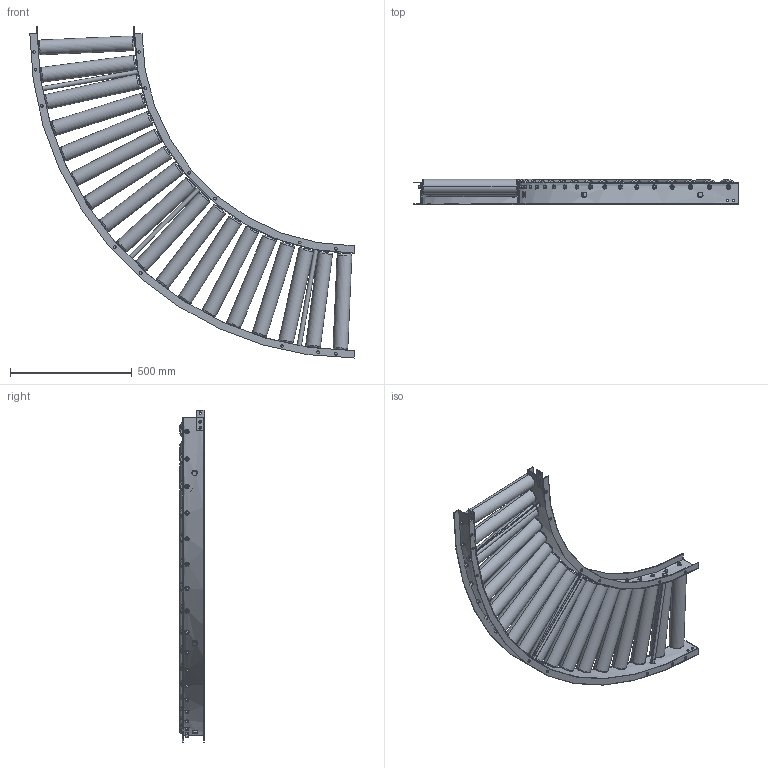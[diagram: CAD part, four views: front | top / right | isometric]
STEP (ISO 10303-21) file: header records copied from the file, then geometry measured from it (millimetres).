
FILE_DESCRIPTION (( 'STEP AP203' ), '1' );
FILE_NAME ('S-6023P_C.step', '2024-03-02T05:09:45', ( '' ), ( '' ), 'SwSTEP 2.0', 'SolidWorks 2023', '' );
FILE_SCHEMA (( 'CONFIG_CONTROL_DESIGN' ));
Length unit declared in the file: millimetre
Products named in the file (1): S-6023P_C
Bounding box: 1330 x 101.69 x 1361.57 mm (x, y, z)
Volume: 20993873.8 mm3; surface area: 3365690.6 mm2
Topology: 55 solids, 55 shells, 1102 faces, 2742 edges, 1792 vertices
Faces by surface type: plane 588, cylinder 406, torus 72, cone 36
Entity records: 38175 total; most frequent: CARTESIAN_POINT 11041, DIRECTION 5732, ORIENTED_EDGE 5484, EDGE_CURVE 2742, AXIS2_PLACEMENT_3D 2183, VERTEX_POINT 1792, VECTOR 1366, LINE 1366
